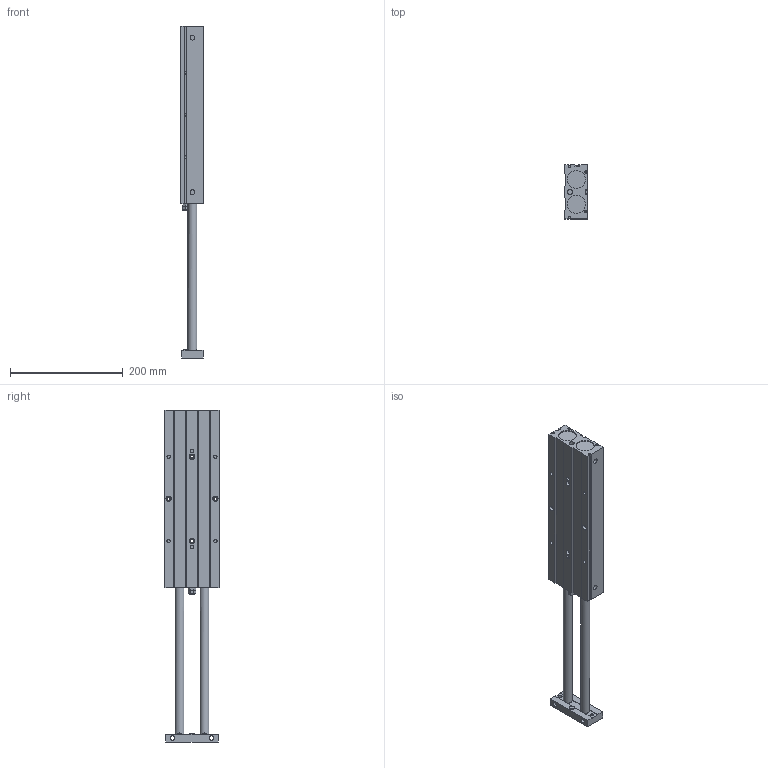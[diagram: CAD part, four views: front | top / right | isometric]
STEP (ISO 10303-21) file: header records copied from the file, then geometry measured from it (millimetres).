
FILE_DESCRIPTION((''),'2;1');
FILE_NAME('I:\3D電子目錄\氣缸\TD\TD32\TD32\TD32x250.stp','2007-08-06T10:24:08',('Administrator'),(''),'Autodesk Inventor 2008','Autodesk Inventor 2008','');
FILE_SCHEMA(('AUTOMOTIVE_DESIGN { 1 0 10303 214 1 1 1 1 }'));
Length unit declared in the file: millimetre
Products named in the file (1): TD32X250
Bounding box: 40.5 x 96 x 590 mm (x, y, z)
Volume: 1304131.2 mm3; surface area: 158678.1 mm2
Topology: 1 solids, 3 shells, 186 faces, 458 edges, 304 vertices
Faces by surface type: plane 131, cylinder 42, cone 7, bspline 4, torus 2
Full cylindrical faces by diameter (mm): 5.5 x4, 6 x8, 8 x2, 8.5 x2, 9 x2, 9.5 x8, 12 x2, 13 x2, 14 x2, 16 x2, 32 x4
Entity records: 6063 total; most frequent: CARTESIAN_POINT 1776, DIRECTION 851, ORIENTED_EDGE 802, EDGE_CURVE 401, EDGE_LOOP 297, AXIS2_PLACEMENT_3D 295, VERTEX_POINT 294, VECTOR 261
